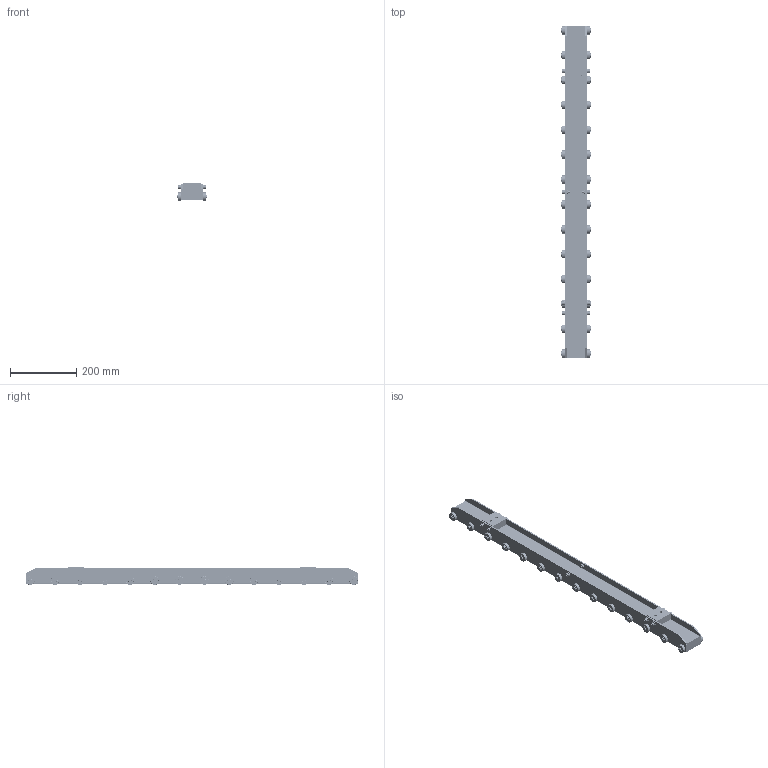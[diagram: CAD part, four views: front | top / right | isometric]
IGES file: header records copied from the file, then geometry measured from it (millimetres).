
Global section: file name: SPR-RO-065Wx050Hx1000L_CAD; native system: unknown; preprocessor: unknown; author: unknown; organization: unknown; date: 20221115.125626; units: millimetre
Bounding box: 92 x 1001 x 53.98 mm (x, y, z)
Volume: 815311.6 mm3; surface area: 756208.1 mm2
Topology: 460 solids, 488 shells, 2644 faces, 7430 edges, 5068 vertices
Faces by surface type: bspline 2644
